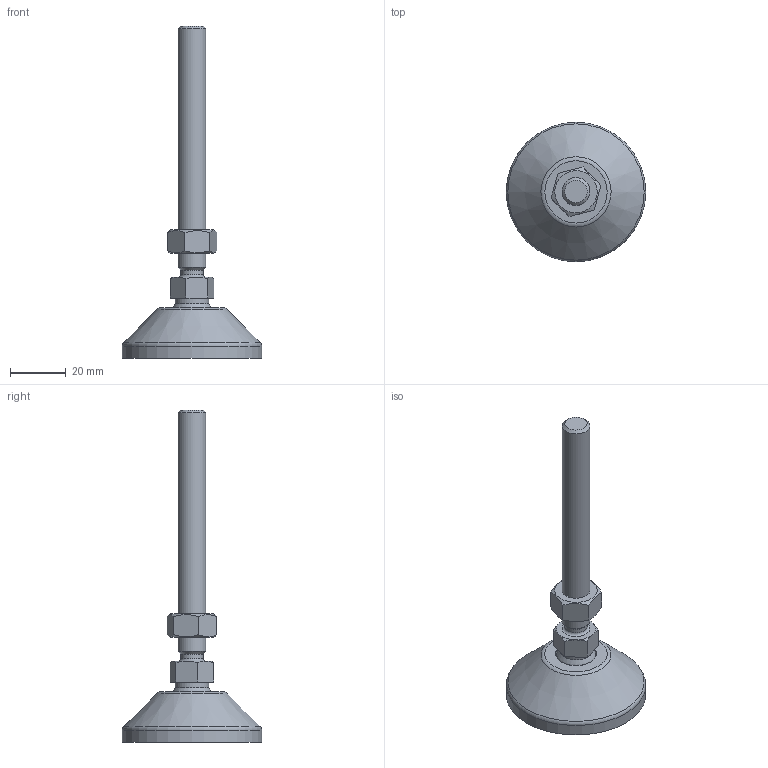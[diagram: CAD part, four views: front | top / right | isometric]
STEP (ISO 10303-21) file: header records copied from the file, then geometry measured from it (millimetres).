
FILE_DESCRIPTION(('STEP AP203'), '1');
FILE_NAME('栖闉罻', '', ('UNSPECIFIED'), ('UNSPECIFIED'), 'C3D Converter', 'C3D Toolkit', '');
FILE_SCHEMA(('CONFIG_CONTROL_DESIGN'));
Length unit declared in the file: millimetre
Products named in the file (4): A00015.1050; A00020.110090
Assembly tree (3 placements, depth 3):
  (unnamed)
    A00015.1050
    A00020.110090
      (unnamed)
Bounding box: 50 x 50 x 119 mm (x, y, z)
Volume: 26811.7 mm3; surface area: 12749.7 mm2
Topology: 3 solids, 3 shells, 182 faces, 487 edges, 323 vertices
Faces by surface type: plane 86, cylinder 50, torus 30, cone 14, sphere 2
Full cylindrical faces by diameter (mm): 4 x8, 8 x1, 8.376 x1, 10 x1, 12 x1, 14.3 x1, 15 x2, 15.5 x1, 39 x1, 50 x1
Entity records: 9361 total; most frequent: CARTESIAN_POINT 3268, DIRECTION 934, ORIENTED_EDGE 904, EDGE_CURVE 452, AXIS2_PLACEMENT_3D 386, VERTEX_POINT 322, EDGE_LOOP 230, CIRCLE 200
